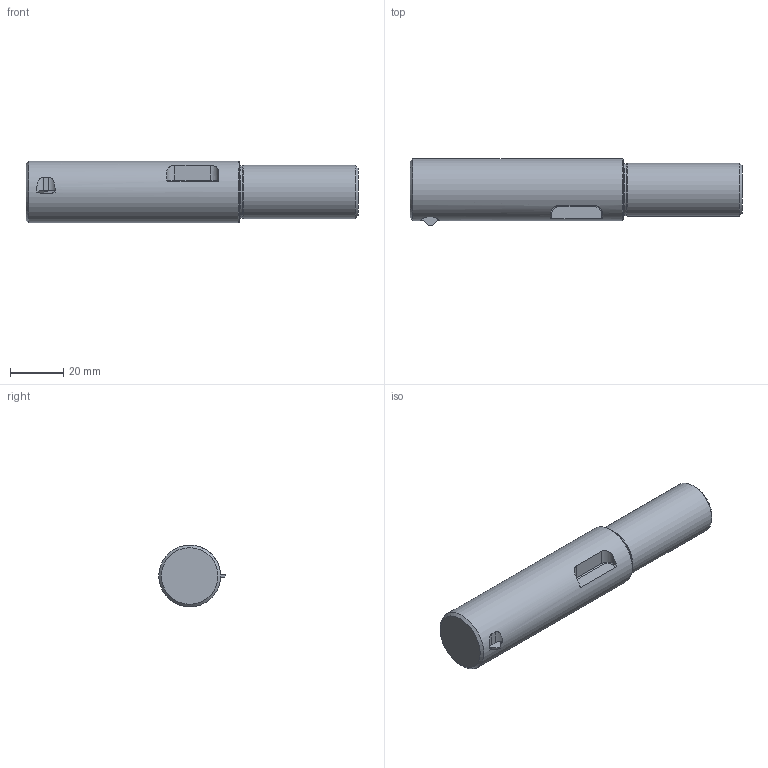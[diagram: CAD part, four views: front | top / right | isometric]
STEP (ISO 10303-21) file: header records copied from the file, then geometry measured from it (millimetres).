
FILE_DESCRIPTION(/* description */ (''),/* implementation_level */ '2;1');
FILE_NAME(/* name */ 'X:\EDF\EDF-OPEN\EDF-865\מודל מעודכן\U Burr NEW\U burr\קבצי STEP\UB3041.stp',/* time_stamp */ '2024-04-04T12:14:09+03:00',/* author */ ('ido'),/* organization */ (''),/* preprocessor_version */ 'ST-DEVELOPER v18.1',/* originating_system */ 'Autodesk Inventor 2022',/* authorisation */ '');
FILE_SCHEMA (('AUTOMOTIVE_DESIGN { 1 0 10303 214 3 1 1 }'));
Length unit declared in the file: millimetre
Products named in the file (1): Ass-Uburr Ø23.5mm_Simplify_1
Bounding box: 125 x 25.04 x 23.3 mm (x, y, z)
Volume: 47846.5 mm3; surface area: 9541.6 mm2
Topology: 1 solids, 1 shells, 36 faces, 85 edges, 54 vertices
Faces by surface type: plane 17, cylinder 11, torus 4, cone 4
Full cylindrical faces by diameter (mm): 19.6 x1, 20 x1, 23.3 x1
Entity records: 1179 total; most frequent: CARTESIAN_POINT 238, DIRECTION 189, ORIENTED_EDGE 170, EDGE_CURVE 85, AXIS2_PLACEMENT_3D 73, VERTEX_POINT 54, LINE 43, VECTOR 43
